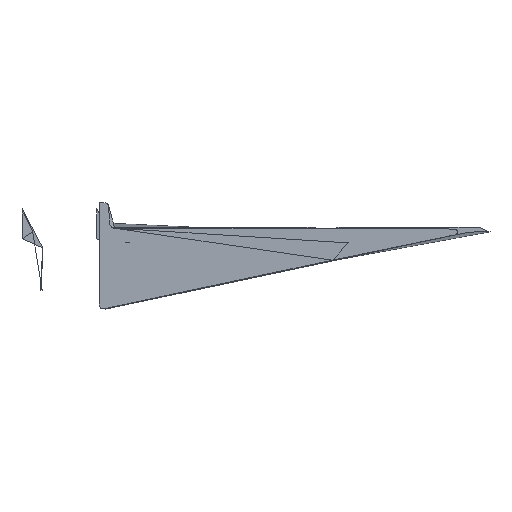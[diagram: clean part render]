
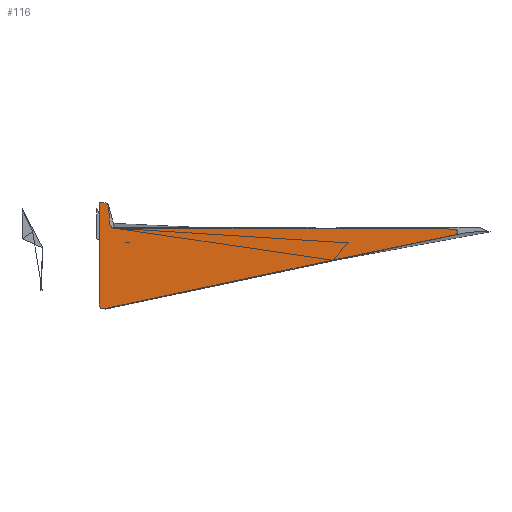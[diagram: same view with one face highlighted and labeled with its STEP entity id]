
A CAD part, front view. The second image highlights one B-rep face of the part: STEP entity #116.
In plain terms, the highlighted free-form (B-spline) face has degree [1, 1] with [2, 2] control points.
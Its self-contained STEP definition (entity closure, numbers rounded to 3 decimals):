
#116=ADVANCED_FACE($,(#149),#483,.T.);
#149=FACE_OUTER_BOUND($,#188,.T.);
#188=EDGE_LOOP($,(#323,#324));
#323=ORIENTED_EDGE($,*,*,#409,.T.);
#324=ORIENTED_EDGE($,*,*,#418,.T.);
#409=EDGE_CURVE($,#469,#475,#954,.T.);
#418=EDGE_CURVE($,#475,#469,#960,.T.);
#469=VERTEX_POINT($,#4608);
#475=VERTEX_POINT($,#4614);
#483=B_SPLINE_SURFACE_WITH_KNOTS($,1,1,((#4549,#4550),(#4551,#4552)),.UNSPECIFIED.,
.F.,.F.,.F.,(2,2),(2,2),(-156.041,84.054),(-32.774,
38.39),.UNSPECIFIED.);
#954=(
BOUNDED_CURVE()
B_SPLINE_CURVE(2,(#4400,#4401,#4402,#4403,#4404,#4405,#4406,#4407,#4408,
#4409,#4410,#4411,#4412,#4413,#4414),.UNSPECIFIED.,.F.,.F.)
B_SPLINE_CURVE_WITH_KNOTS((3,2,2,2,2,2,2,3),(-6.172,0.,77.851,
80.783,83.715,159.435,165.778,311.22),
.UNSPECIFIED.)
CURVE()
GEOMETRIC_REPRESENTATION_ITEM()
RATIONAL_B_SPLINE_CURVE((1.,1.,1.,1.,1.,0.743,
1.,0.743,1.,1.,1.,1.,1.,1.,1.))
REPRESENTATION_ITEM($)
);
#960=(
BOUNDED_CURVE()
B_SPLINE_CURVE(2,(#4460,#4461,#4462,#4463,#4464,#4465,#4466,#4467,#4468,
#4469,#4470,#4471,#4472,#4473,#4474,#4475,#4476,#4477,#4478),.UNSPECIFIED.,
.F.,.F.)
B_SPLINE_CURVE_WITH_KNOTS((3,2,2,2,2,2,2,2,2,3),(311.22,316.51,
327.837,331.615,335.138,335.531,403.751,
405.976,408.201,564.641),.UNSPECIFIED.)
CURVE()
GEOMETRIC_REPRESENTATION_ITEM()
RATIONAL_B_SPLINE_CURVE((1.,0.728,1.,1.,1.,0.728,
1.,1.,1.,0.707,1.,1.,1.,0.903,1.,0.903,
1.,1.,1.))
REPRESENTATION_ITEM($)
);
#4400=CARTESIAN_POINT($,(159.361,-346.004,30.653));
#4401=CARTESIAN_POINT($,(162.38,-346.004,31.294));
#4402=CARTESIAN_POINT($,(165.403,-346.004,31.917));
#4403=CARTESIAN_POINT($,(203.527,-346.004,39.775));
#4404=CARTESIAN_POINT($,(241.652,-346.004,47.633));
#4405=CARTESIAN_POINT($,(243.415,-346.004,47.997));
#4406=CARTESIAN_POINT($,(243.238,-346.004,49.789));
#4407=CARTESIAN_POINT($,(243.061,-346.004,51.581));
#4408=CARTESIAN_POINT($,(241.26,-346.004,51.592));
#4409=CARTESIAN_POINT($,(203.402,-346.004,51.832));
#4410=CARTESIAN_POINT($,(165.543,-346.004,52.072));
#4411=CARTESIAN_POINT($,(162.371,-346.004,52.092));
#4412=CARTESIAN_POINT($,(159.2,-346.004,52.092));
#4413=CARTESIAN_POINT($,(86.479,-346.004,52.092));
#4414=CARTESIAN_POINT($,(13.757,-346.004,52.092));
#4460=CARTESIAN_POINT($,(13.757,-346.004,52.092));
#4461=CARTESIAN_POINT($,(10.459,-346.004,52.092));
#4462=CARTESIAN_POINT($,(10.263,-346.004,55.384));
#4463=CARTESIAN_POINT($,(9.926,-346.004,61.038));
#4464=CARTESIAN_POINT($,(9.589,-346.004,66.691));
#4465=CARTESIAN_POINT($,(9.449,-346.004,69.042));
#4466=CARTESIAN_POINT($,(7.094,-346.004,69.042));
#4467=CARTESIAN_POINT($,(5.332,-346.004,69.042));
#4468=CARTESIAN_POINT($,(3.571,-346.004,69.042));
#4469=CARTESIAN_POINT($,(3.321,-346.004,69.042));
#4470=CARTESIAN_POINT($,(3.321,-346.004,68.792));
#4471=CARTESIAN_POINT($,(3.321,-346.004,34.682));
#4472=CARTESIAN_POINT($,(3.321,-346.004,0.572));
#4473=CARTESIAN_POINT($,(3.321,-346.004,-0.62));
#4474=CARTESIAN_POINT($,(4.247,-346.004,-1.37));
#4475=CARTESIAN_POINT($,(5.174,-346.004,-2.121));
#4476=CARTESIAN_POINT($,(6.341,-346.004,-1.873));
#4477=CARTESIAN_POINT($,(82.851,-346.004,14.39));
#4478=CARTESIAN_POINT($,(159.361,-346.004,30.653));
#4549=CARTESIAN_POINT($,(3.321,-346.004,-2.121));
#4550=CARTESIAN_POINT($,(3.321,-346.004,69.042));
#4551=CARTESIAN_POINT($,(243.415,-346.004,-2.121));
#4552=CARTESIAN_POINT($,(243.415,-346.004,69.042));
#4608=CARTESIAN_POINT($,(159.361,-346.004,30.653));
#4614=CARTESIAN_POINT($,(13.757,-346.004,52.092));
